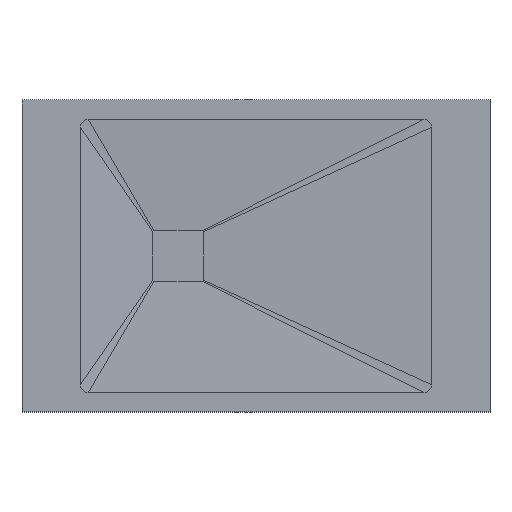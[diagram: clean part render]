
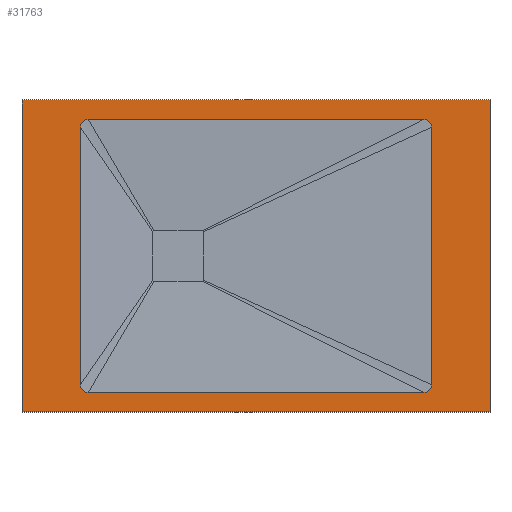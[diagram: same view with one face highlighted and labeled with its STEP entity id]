
A CAD part, top view. The second image highlights one B-rep face of the part: STEP entity #31763.
In plain terms, the highlighted planar face has unit normal (0, 0, 1).
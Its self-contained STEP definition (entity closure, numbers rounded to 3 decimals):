
#17=CARTESIAN_POINT('',(-565.548,501.439,0.0));
#18=VERTEX_POINT('',#17);
#25=CARTESIAN_POINT('',(634.452,501.439,0.0));
#26=VERTEX_POINT('',#25);
#27=CARTESIAN_POINT('',(634.452,501.439,0.0));
#28=DIRECTION('',(-1.0,0.0,0.0));
#29=VECTOR('',#28,1200.0);
#30=LINE('',#27,#29);
#31=EDGE_CURVE('',#26,#18,#30,.T.);
#49=CARTESIAN_POINT('',(-395.548,451.439,0.0));
#50=VERTEX_POINT('',#49);
#65=CARTESIAN_POINT('',(464.452,451.439,0.0));
#66=VERTEX_POINT('',#65);
#73=CARTESIAN_POINT('',(-395.548,451.439,0.0));
#74=DIRECTION('',(1.0,0.0,0.0));
#75=VECTOR('',#74,860.);
#76=LINE('',#73,#75);
#77=EDGE_CURVE('',#50,#66,#76,.T.);
#163=CARTESIAN_POINT('',(-415.548,431.439,0.0));
#164=VERTEX_POINT('',#163);
#181=CARTESIAN_POINT('',(-395.548,431.439,0.0));
#182=DIRECTION('',(0.0,0.0,-1.0));
#183=DIRECTION('',(0.0,1.0,0.0));
#184=AXIS2_PLACEMENT_3D('',#181,#182,#183);
#185=CIRCLE('',#184,20.0);
#186=EDGE_CURVE('',#164,#50,#185,.T.);
#282=CARTESIAN_POINT('',(484.452,431.439,0.0));
#283=VERTEX_POINT('',#282);
#290=CARTESIAN_POINT('',(464.452,431.439,0.0));
#291=DIRECTION('',(0.0,0.0,-1.0));
#292=DIRECTION('',(1.0,0.0,0.0));
#293=AXIS2_PLACEMENT_3D('',#290,#291,#292);
#294=CIRCLE('',#293,20.0);
#295=EDGE_CURVE('',#66,#283,#294,.T.);
#15904=CARTESIAN_POINT('',(634.452,-298.561,0.0));
#15905=VERTEX_POINT('',#15904);
#15912=CARTESIAN_POINT('',(-565.548,-298.561,0.0));
#15913=VERTEX_POINT('',#15912);
#15914=CARTESIAN_POINT('',(634.452,-298.561,0.0));
#15915=DIRECTION('',(-1.0,0.0,0.0));
#15916=VECTOR('',#15915,1200.0);
#15917=LINE('',#15914,#15916);
#15918=EDGE_CURVE('',#15905,#15913,#15917,.T.);
#15942=CARTESIAN_POINT('',(-395.548,-248.561,0.0));
#15943=VERTEX_POINT('',#15942);
#15944=CARTESIAN_POINT('',(464.452,-248.561,0.0));
#15945=VERTEX_POINT('',#15944);
#15946=CARTESIAN_POINT('',(-395.548,-248.561,0.0));
#15947=DIRECTION('',(1.0,0.0,0.0));
#15948=VECTOR('',#15947,860.);
#15949=LINE('',#15946,#15948);
#15950=EDGE_CURVE('',#15943,#15945,#15949,.T.);
#16058=CARTESIAN_POINT('',(-415.548,-228.561,0.0));
#16059=VERTEX_POINT('',#16058);
#16060=CARTESIAN_POINT('',(-395.548,-228.561,0.0));
#16061=DIRECTION('',(0.0,0.0,1.0));
#16062=DIRECTION('',(0.0,-1.0,0.0));
#16063=AXIS2_PLACEMENT_3D('',#16060,#16061,#16062);
#16064=CIRCLE('',#16063,20.0);
#16065=EDGE_CURVE('',#16059,#15943,#16064,.T.);
#16167=CARTESIAN_POINT('',(484.452,-228.561,0.0));
#16168=VERTEX_POINT('',#16167);
#16169=CARTESIAN_POINT('',(464.452,-228.561,0.0));
#16170=DIRECTION('',(0.0,0.0,1.0));
#16171=DIRECTION('',(1.0,0.0,0.0));
#16172=AXIS2_PLACEMENT_3D('',#16169,#16170,#16171);
#16173=CIRCLE('',#16172,20.0);
#16174=EDGE_CURVE('',#15945,#16168,#16173,.T.);
#31722=CARTESIAN_POINT('',(-565.556,-298.569,0.0));
#31723=DIRECTION('',(0.0,0.0,1.0));
#31724=DIRECTION('',(1.0,0.0,0.0));
#31725=AXIS2_PLACEMENT_3D('',#31722,#31723,#31724);
#31726=PLANE('',#31725);
#31727=ORIENTED_EDGE('',*,*,#31,.T.);
#31728=CARTESIAN_POINT('',(-565.548,501.439,0.0));
#31729=DIRECTION('',(0.0,-1.0,0.0));
#31730=VECTOR('',#31729,800.0);
#31731=LINE('',#31728,#31730);
#31732=EDGE_CURVE('',#18,#15913,#31731,.T.);
#31733=ORIENTED_EDGE('',*,*,#31732,.T.);
#31734=ORIENTED_EDGE('',*,*,#15918,.F.);
#31735=CARTESIAN_POINT('',(634.452,501.439,0.0));
#31736=DIRECTION('',(0.0,-1.0,0.0));
#31737=VECTOR('',#31736,800.0);
#31738=LINE('',#31735,#31737);
#31739=EDGE_CURVE('',#26,#15905,#31738,.T.);
#31740=ORIENTED_EDGE('',*,*,#31739,.F.);
#31741=EDGE_LOOP('',(#31727,#31733,#31734,#31740));
#31742=FACE_OUTER_BOUND('',#31741,.T.);
#31743=CARTESIAN_POINT('',(-415.548,431.439,0.0));
#31744=DIRECTION('',(0.0,-1.0,0.0));
#31745=VECTOR('',#31744,660.0);
#31746=LINE('',#31743,#31745);
#31747=EDGE_CURVE('',#164,#16059,#31746,.T.);
#31748=ORIENTED_EDGE('',*,*,#31747,.F.);
#31749=ORIENTED_EDGE('',*,*,#186,.T.);
#31750=ORIENTED_EDGE('',*,*,#77,.T.);
#31751=ORIENTED_EDGE('',*,*,#295,.T.);
#31752=CARTESIAN_POINT('',(484.452,431.439,0.0));
#31753=DIRECTION('',(0.0,-1.0,0.0));
#31754=VECTOR('',#31753,660.0);
#31755=LINE('',#31752,#31754);
#31756=EDGE_CURVE('',#283,#16168,#31755,.T.);
#31757=ORIENTED_EDGE('',*,*,#31756,.T.);
#31758=ORIENTED_EDGE('',*,*,#16174,.F.);
#31759=ORIENTED_EDGE('',*,*,#15950,.F.);
#31760=ORIENTED_EDGE('',*,*,#16065,.F.);
#31761=EDGE_LOOP('',(#31748,#31749,#31750,#31751,#31757,#31758,#31759,#31760));
#31762=FACE_BOUND('',#31761,.T.);
#31763=ADVANCED_FACE('',(#31742,#31762),#31726,.T.);
